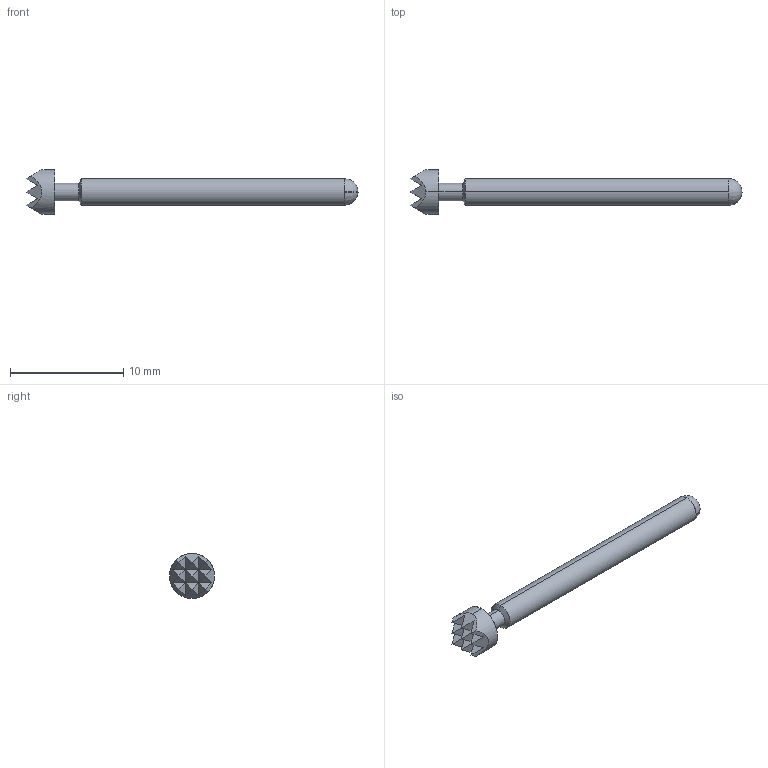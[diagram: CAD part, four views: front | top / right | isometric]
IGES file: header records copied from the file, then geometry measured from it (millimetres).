
Start section: SolidWorks IGES file using analytic representation for surfaces
Global section: file name: Z:\probe solid model mockups\Solidworks models\IGES Files\HCP-14 IGES files\HCP-14H RECD.IGS; native system: SolidWorks 2006 by SolidWorks Corporation; preprocessor: SolidWorks 2006 by SolidWorks Corporation; author: tsakatani; date: 071202.143620; units: inch
Bounding box: 29.29 x 3.96 x 3.96 mm (x, y, z)
Surface area: 247.7 mm2 (no closed solid volume)
Topology: 0 solids, 0 shells, 39 faces, 250 edges, 248 vertices
Faces by surface type: bspline 29, revolution 10
